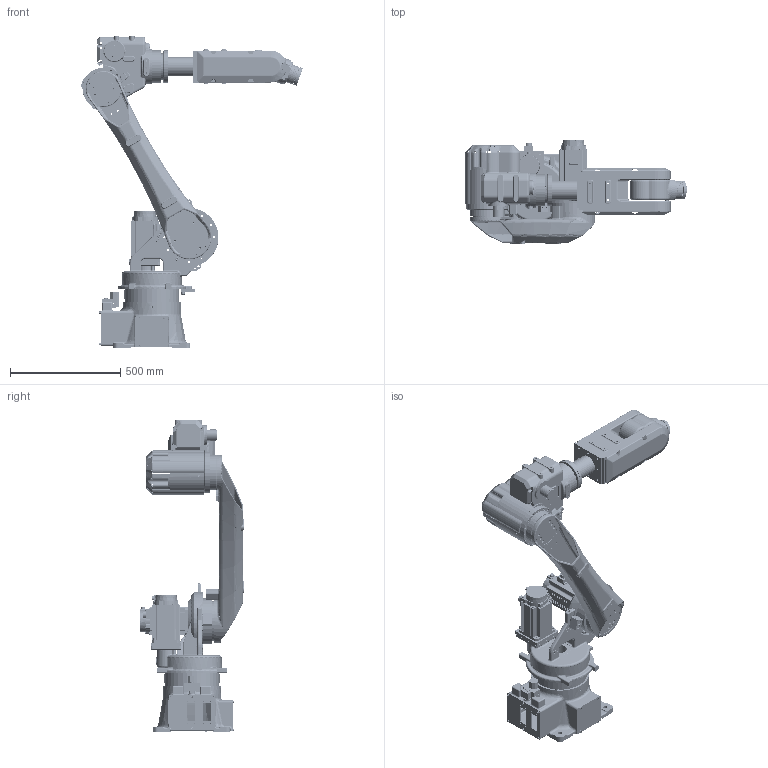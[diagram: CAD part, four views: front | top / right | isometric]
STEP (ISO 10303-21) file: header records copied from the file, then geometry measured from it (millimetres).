
FILE_DESCRIPTION((''),'2;1');
FILE_NAME('LT1850-D-6000_ASM','2020-10-07T11:41:43',('EBD-GC01'),(''),'CREO PARAMETRIC BY PTC INC, 2019224','CREO PARAMETRIC BY PTC INC, 2019224','');
FILE_SCHEMA(('CONFIG_CONTROL_DESIGN'));
Products named in the file (17): 0001_ASM; LT1850B-2_____10_3_ASM_1_3; 3_ASM_1_ASM_1_ASM_1_ASM_1_ASM_1_ASM; 00_ASM; LT1850B-3_100_1_1_1_3; LT1850B-3_100_1_1_3_3; LT1850B-3_100_1_1_ASM_3_ASM; RV40E_100_1_1_3; 185000_ASM_1-196999_ASM; 1850000_ASM_1-205275_ASM; LT1850B-AB-1AB____000_1_1_3; LT1850B-AB-2_100_1_1; LT1850B-AB-10_100_1_1; 0004; AB0_ASM; LT1850-D-6000_ASM
Assembly tree (16 placements, depth 5):
  LT1850-D-6000_ASM
    0001_ASM
    00_ASM
      3_ASM_1_ASM_1_ASM_1_ASM_1_ASM_1_ASM
        LT1850B-2_____10_3_ASM_1_3
    1850000_ASM_1-205275_ASM
      185000_ASM_1-196999_ASM
        LT1850B-3_100_1_1_ASM_3_ASM
          LT1850B-3_100_1_1_1_3
          LT1850B-3_100_1_1_3_3
        RV40E_100_1_1_3
    00_ASM
    LT1850B-AB-1AB____000_1_1_3
    AB0_ASM
      LT1850B-AB-2_100_1_1
      LT1850B-AB-10_100_1_1
      0004
Bounding box: 1005.92 x 474.48 x 1419.5 mm (x, y, z)
Volume: 2523708.1 mm3; surface area: 5414046 mm2
Topology: 2 solids, 1596 shells, 7301 faces, 22913 edges, 17377 vertices
Faces by surface type: cylinder 3291, plane 2033, torus 595, cone 577, bspline 424, extrusion 240, sphere 141
Entity records: 292973 total; most frequent: CARTESIAN_POINT 91678, DIRECTION 42123, ORIENTED_EDGE 37460, EDGE_CURVE 22638, VERTEX_POINT 17380, AXIS2_PLACEMENT_3D 16587, CIRCLE 9904, VECTOR 8949
